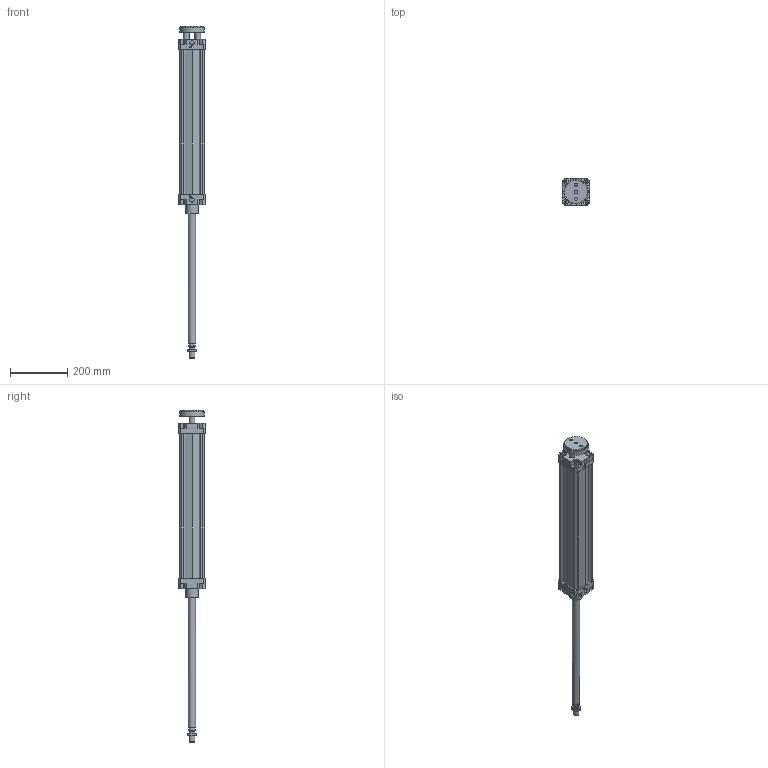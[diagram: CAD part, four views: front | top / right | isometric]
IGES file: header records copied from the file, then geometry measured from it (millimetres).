
Global section: file name: 132#_080_0450_02; native system: Autodesk Inventor 2014; preprocessor: unknown; author: A. Manieri; date: 20161006.162515; units: millimetre
Bounding box: 95 x 95 x 1160 mm (x, y, z)
Volume: 2507123.6 mm3; surface area: 547801.3 mm2
Topology: 3 solids, 3 shells, 220 faces, 589 edges, 397 vertices
Faces by surface type: bspline 220
